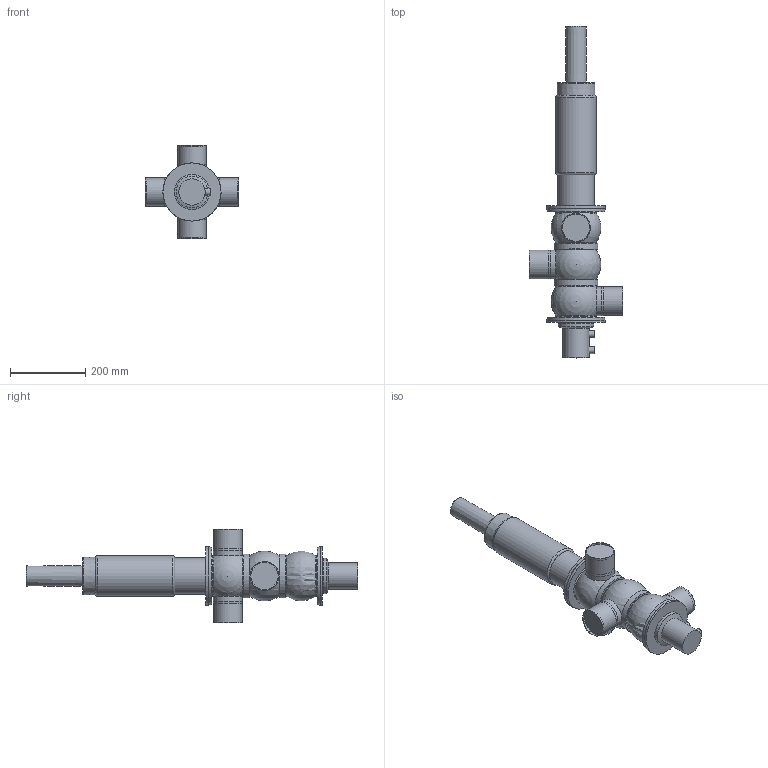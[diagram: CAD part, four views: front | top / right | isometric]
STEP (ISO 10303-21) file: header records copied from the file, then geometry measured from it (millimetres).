
FILE_DESCRIPTION(/* description */ ('Creo Elements/Direct Modeling STEP Export'),/* implementation_level */ '2;1');
FILE_NAME(/* name */ 'O:\Benutzer\Trimpop\DU4 SL\Makros\DU4 SL_VSM_stp\DU46(1-7-10-12)-3inch SL_VSM.stp',/* time_stamp */ '2021-10-04T12:32:15+02:00',/* author */ ('KERAMN'),/* organization */ (''),/* preprocessor_version */ 'ST-DEVELOPER v18.1',/* originating_system */ 'Autodesk Inventor 2020',/* authorisation */ '');
FILE_SCHEMA (('AUTOMOTIVE_DESIGN { 1 0 10303 214 3 1 1 }'));
Length unit declared in the file: millimetre
Products named in the file (6): DU46(1-7-10-12)-3inch SL_VSM; actuator_D4SL-100_yoke; DU46_48-3T(1-7-10-12_1-3-6-12)_Shrinkwrap_1; lid housing DU4-62 simplified; drain_pipe_62; D4_Prox._holder
Assembly tree (5 placements, depth 2):
  DU46(1-7-10-12)-3inch SL_VSM
    actuator_D4SL-100_yoke
    DU46_48-3T(1-7-10-12_1-3-6-12)_Shrinkwrap_1
    lid housing DU4-62 simplified
    drain_pipe_62
    D4_Prox._holder
Bounding box: 250 x 885.05 x 250 mm (x, y, z)
Volume: 8661742.5 mm3; surface area: 535505.1 mm2
Topology: 5 solids, 5 shells, 91 faces, 209 edges, 153 vertices
Faces by surface type: plane 38, cylinder 35, torus 7, cone 4, bspline 4, sphere 3
Full cylindrical faces by diameter (mm): 18 x2, 60 x1, 68 x1, 70 x1, 72.9 x4, 76.1 x4, 77.1 x4, 82.9 x1, 85 x1, 85.1 x1, 94 x1, 96 x1, 107 x1, 107.2 x6, 117 x2, 155 x4
Entity records: 3161 total; most frequent: CARTESIAN_POINT 727, DIRECTION 553, ORIENTED_EDGE 406, AXIS2_PLACEMENT_3D 256, EDGE_CURVE 203, CIRCLE 157, VERTEX_POINT 153, EDGE_LOOP 122
